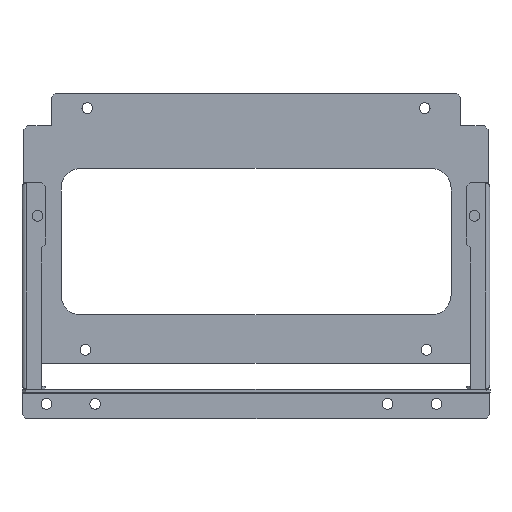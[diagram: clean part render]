
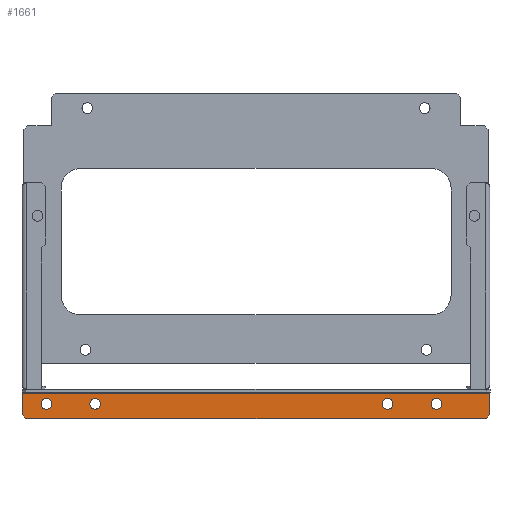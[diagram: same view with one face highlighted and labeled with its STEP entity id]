
A CAD part, left-side view. The second image highlights one B-rep face of the part: STEP entity #1661.
In plain terms, the highlighted planar face has unit normal (-1, 0, 0) as drawn and (1, 0, 0) by its records, which use the part's own axes.
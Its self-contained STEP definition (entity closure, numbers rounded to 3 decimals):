
#366=CARTESIAN_POINT(' ',(-97.5,-67.5,8.75));
#367=VERTEX_POINT(' ',#366);
#381=CARTESIAN_POINT(' ',(-97.5,-67.5,6.));
#386=DIRECTION(' ',(1.,0.,0.));
#391=DIRECTION(' ',(0.,0.,1.));
#396=AXIS2_PLACEMENT_3D(' ',#381,#386,#391);
#401=CIRCLE('',#396,2.75);
#406=CARTESIAN_POINT(' ',(-97.5,-67.5,3.25));
#407=VERTEX_POINT(' ',#406);
#411=EDGE_CURVE(' ',#367,#407,#401,.T.);
#1076=CARTESIAN_POINT(' ',(-97.5,-67.5,6.));
#1081=DIRECTION(' ',(1.,0.,0.));
#1086=DIRECTION(' ',(0.,0.,-1.));
#1091=AXIS2_PLACEMENT_3D(' ',#1076,#1081,#1086);
#1096=CIRCLE('',#1091,2.75);
#1101=EDGE_CURVE(' ',#407,#367,#1096,.T.);
#1126=DIRECTION(' ',(1.,0.,0.));
#1131=CARTESIAN_POINT(' ',(-97.5,-120.,13.5));
#1136=DIRECTION(' ',(0.,0.,-1.));
#1141=AXIS2_PLACEMENT_3D(' ',#1131,#1126,#1136);
#1146=PLANE('NONE',#1141);
#1151=CARTESIAN_POINT(' ',(-97.5,-118.,13.5));
#1156=DIRECTION(' ',(0.,1.,0.));
#1161=VECTOR(' ',#1156,1.);
#1166=LINE('',#1151,#1161);
#1171=CARTESIAN_POINT(' ',(-97.5,-118.,13.5));
#1172=VERTEX_POINT(' ',#1171);
#1176=CARTESIAN_POINT(' ',(-97.5,118.,13.5));
#1177=VERTEX_POINT(' ',#1176);
#1181=EDGE_CURVE(' ',#1172,#1177,#1166,.T.);
#1186=ORIENTED_EDGE(' ',*,*,#1181,.F.);
#1191=CARTESIAN_POINT(' ',(-97.5,-118.,13.5));
#1196=DIRECTION(' ',(0.,-0.707,-0.707));
#1201=VECTOR(' ',#1196,1.);
#1206=LINE('',#1191,#1201);
#1211=CARTESIAN_POINT(' ',(-97.5,-120.,11.5));
#1212=VERTEX_POINT(' ',#1211);
#1216=EDGE_CURVE(' ',#1172,#1212,#1206,.T.);
#1221=ORIENTED_EDGE(' ',*,*,#1216,.T.);
#1226=CARTESIAN_POINT(' ',(-97.5,-120.,0.6));
#1231=DIRECTION(' ',(0.,0.,1.));
#1236=VECTOR(' ',#1231,1.);
#1241=LINE('',#1226,#1236);
#1246=CARTESIAN_POINT(' ',(-97.5,-120.,0.6));
#1247=VERTEX_POINT(' ',#1246);
#1251=EDGE_CURVE(' ',#1247,#1212,#1241,.T.);
#1256=ORIENTED_EDGE(' ',*,*,#1251,.F.);
#1261=CARTESIAN_POINT(' ',(-97.5,120.,0.6));
#1266=DIRECTION(' ',(0.,-1.,0.));
#1271=VECTOR(' ',#1266,1.);
#1276=LINE('',#1261,#1271);
#1281=CARTESIAN_POINT(' ',(-97.5,120.,0.6));
#1282=VERTEX_POINT(' ',#1281);
#1286=EDGE_CURVE(' ',#1282,#1247,#1276,.T.);
#1291=ORIENTED_EDGE(' ',*,*,#1286,.F.);
#1296=CARTESIAN_POINT(' ',(-97.5,120.,11.5));
#1301=DIRECTION(' ',(0.,0.,-1.));
#1306=VECTOR(' ',#1301,1.);
#1311=LINE('',#1296,#1306);
#1316=CARTESIAN_POINT(' ',(-97.5,120.,11.5));
#1317=VERTEX_POINT(' ',#1316);
#1321=EDGE_CURVE(' ',#1317,#1282,#1311,.T.);
#1326=ORIENTED_EDGE(' ',*,*,#1321,.F.);
#1331=CARTESIAN_POINT(' ',(-97.5,120.,11.5));
#1336=DIRECTION(' ',(0.,-0.707,0.707));
#1341=VECTOR(' ',#1336,1.);
#1346=LINE('',#1331,#1341);
#1351=EDGE_CURVE(' ',#1317,#1177,#1346,.T.);
#1356=ORIENTED_EDGE(' ',*,*,#1351,.T.);
#1361=EDGE_LOOP(' ',(#1186,#1221,#1256,#1291,#1326,#1356));
#1366=FACE_OUTER_BOUND(' ',#1361,.T.);
#1371=ORIENTED_EDGE(' ',*,*,#1101,.F.);
#1376=ORIENTED_EDGE(' ',*,*,#411,.F.);
#1381=EDGE_LOOP(' ',(#1371,#1376));
#1386=FACE_BOUND(' ',#1381,.T.);
#1391=CARTESIAN_POINT(' ',(-97.5,107.5,6.));
#1396=DIRECTION(' ',(-1.,0.,0.));
#1401=DIRECTION(' ',(0.,0.,1.));
#1406=AXIS2_PLACEMENT_3D(' ',#1391,#1396,#1401);
#1411=CIRCLE('',#1406,2.75);
#1416=CARTESIAN_POINT(' ',(-97.5,107.5,8.75));
#1417=VERTEX_POINT(' ',#1416);
#1421=CARTESIAN_POINT(' ',(-97.5,107.5,3.25));
#1422=VERTEX_POINT(' ',#1421);
#1426=EDGE_CURVE(' ',#1417,#1422,#1411,.T.);
#1431=ORIENTED_EDGE(' ',*,*,#1426,.T.);
#1436=CARTESIAN_POINT(' ',(-97.5,107.5,6.));
#1441=DIRECTION(' ',(-1.,0.,0.));
#1446=DIRECTION(' ',(0.,0.,-1.));
#1451=AXIS2_PLACEMENT_3D(' ',#1436,#1441,#1446);
#1456=CIRCLE('',#1451,2.75);
#1461=EDGE_CURVE(' ',#1422,#1417,#1456,.T.);
#1466=ORIENTED_EDGE(' ',*,*,#1461,.T.);
#1471=EDGE_LOOP(' ',(#1431,#1466));
#1476=FACE_BOUND(' ',#1471,.T.);
#1481=CARTESIAN_POINT(' ',(-97.5,-92.5,6.));
#1486=DIRECTION(' ',(-1.,0.,0.));
#1491=DIRECTION(' ',(0.,0.,1.));
#1496=AXIS2_PLACEMENT_3D(' ',#1481,#1486,#1491);
#1501=CIRCLE('',#1496,2.75);
#1506=CARTESIAN_POINT(' ',(-97.5,-92.5,8.75));
#1507=VERTEX_POINT(' ',#1506);
#1511=CARTESIAN_POINT(' ',(-97.5,-92.5,3.25));
#1512=VERTEX_POINT(' ',#1511);
#1516=EDGE_CURVE(' ',#1507,#1512,#1501,.T.);
#1521=ORIENTED_EDGE(' ',*,*,#1516,.T.);
#1526=CARTESIAN_POINT(' ',(-97.5,-92.5,6.));
#1531=DIRECTION(' ',(-1.,0.,0.));
#1536=DIRECTION(' ',(0.,0.,-1.));
#1541=AXIS2_PLACEMENT_3D(' ',#1526,#1531,#1536);
#1546=CIRCLE('',#1541,2.75);
#1551=EDGE_CURVE(' ',#1512,#1507,#1546,.T.);
#1556=ORIENTED_EDGE(' ',*,*,#1551,.T.);
#1561=EDGE_LOOP(' ',(#1521,#1556));
#1566=FACE_BOUND(' ',#1561,.T.);
#1571=CARTESIAN_POINT(' ',(-97.5,82.5,6.));
#1576=DIRECTION(' ',(1.,0.,0.));
#1581=DIRECTION(' ',(0.,0.,-1.));
#1586=AXIS2_PLACEMENT_3D(' ',#1571,#1576,#1581);
#1591=CIRCLE('',#1586,2.75);
#1596=CARTESIAN_POINT(' ',(-97.5,82.5,3.25));
#1597=VERTEX_POINT(' ',#1596);
#1601=CARTESIAN_POINT(' ',(-97.5,82.5,8.75));
#1602=VERTEX_POINT(' ',#1601);
#1606=EDGE_CURVE(' ',#1597,#1602,#1591,.T.);
#1611=ORIENTED_EDGE(' ',*,*,#1606,.F.);
#1616=CARTESIAN_POINT(' ',(-97.5,82.5,6.));
#1621=DIRECTION(' ',(1.,0.,0.));
#1626=DIRECTION(' ',(0.,0.,1.));
#1631=AXIS2_PLACEMENT_3D(' ',#1616,#1621,#1626);
#1636=CIRCLE('',#1631,2.75);
#1641=EDGE_CURVE(' ',#1602,#1597,#1636,.T.);
#1646=ORIENTED_EDGE(' ',*,*,#1641,.F.);
#1651=EDGE_LOOP(' ',(#1611,#1646));
#1656=FACE_BOUND(' ',#1651,.T.);
#1661=ADVANCED_FACE('NONE',(#1366,#1386,#1476,#1566,#1656),#1146,.T.);
